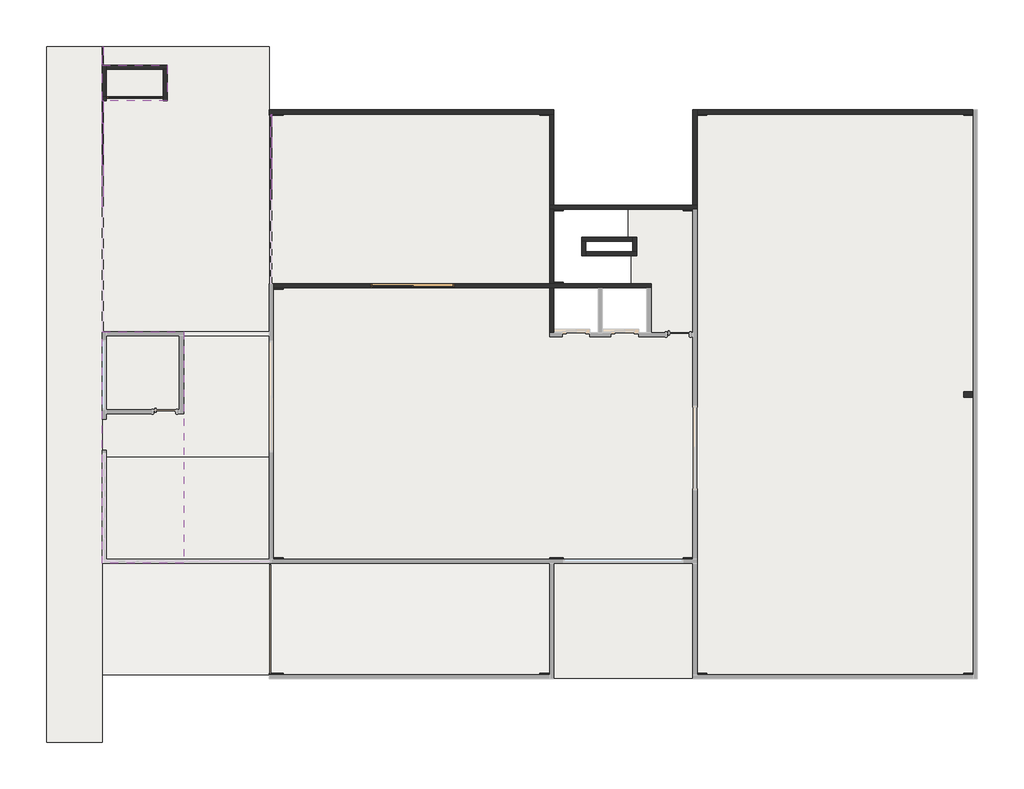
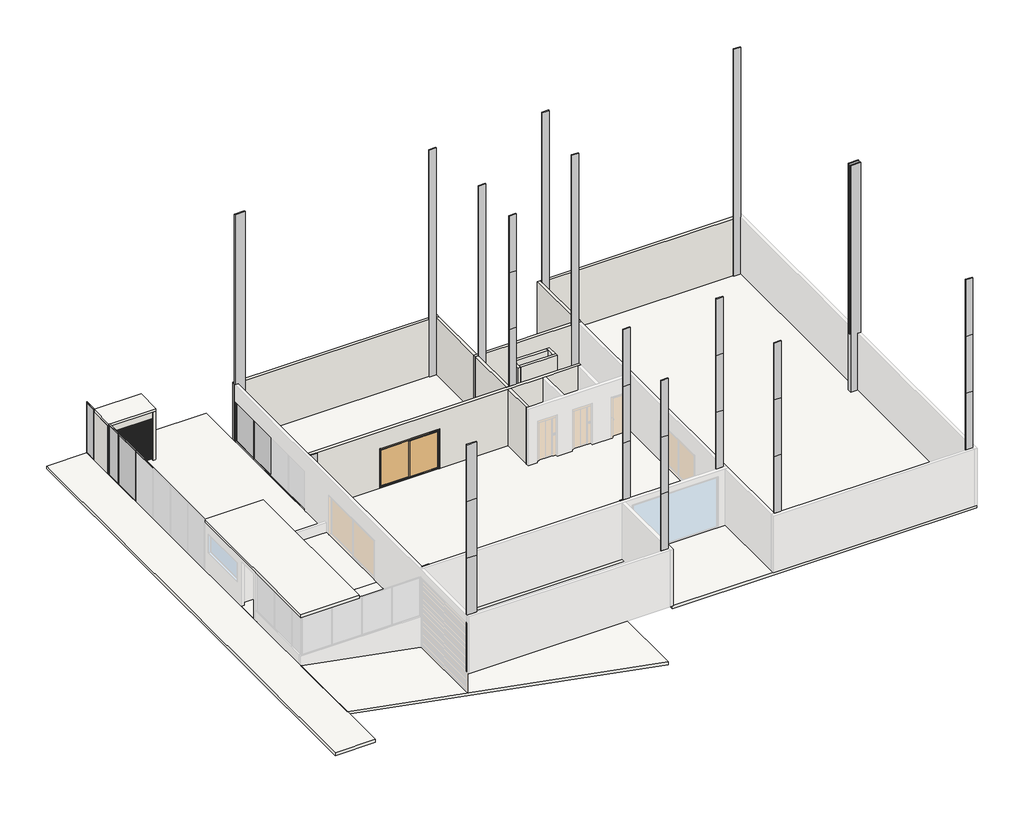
# One storey, part 2 of 2: 20 members, 16 columns, 15 walls, 8 slabs, 6 plates, 2 doors.
"""IFC4 building model written with IfcOpenShell, lengths in millimetres."""

from ifc_helpers import new_model, si_unit, frame, origin, origin_with_axes, place, context, project, spatial, polyline, outline, extrude, faceted_brep, transform, mapped, element, save
from components import door_956eb95e, door_3_00m_x_2_10m_bc451fc0, montante_retangular_30mm_quadrado_0448d2ee, montante_retangular_30mm_quadrado_052a7b02, montante_retangular_30mm_quadrado_8cb72221, montante_retangular_30mm_quadrado_36abf0b9, montante_retangular_30mm_quadrado_8a8b1aba, montante_retangular_30mm_quadrado_49b140b9, montante_retangular_30mm_quadrado_b2bf4f86, montante_retangular_30mm_quadrado_ebe63117, montante_retangular_30mm_quadrado_4952c7f2, painel_do_sistema_4731f275, painel_do_sistema_7d7a76ee, painel_do_sistema_acf0908f, painel_do_sistema_b03fa703, painel_do_sistema_2e0f2578

model = new_model("IFC4")

# Units and contexts
model_context = context("Model", 3, world=origin())
ifc_project = project(units=[si_unit("LENGTHUNIT", "METRE", prefix="MILLI")], contexts=[model_context])

# Site, building, storey
site = spatial("IfcSite", under=ifc_project)
building = spatial("IfcBuilding", under=site)
storey = spatial("IfcBuildingStorey", under=building, Name="Térreo", Elevation=150.0)

# Columns
placement = place(None, origin())
element("IfcColumn", 1, ObjectType="M_Coluna retangular : 50cm x 20cm", at=placement, inside=storey, context=model_context, shape_type="Brep", body=[
    faceted_brep([(6000.0, 22525.0, 12150.0), (6500.0, 22525.0, 12150.0), (6500.0, 22575.0, 12150.0), (6000.0, 22575.0, 12150.0), (6500.0, 22525.0, 150.0), (6000.0, 22525.0, 150.0), (6000.0, 22575.0, 150.0), (6500.0, 22575.0, 150.0), (6000.0, 22575.0, 6150.0), (6000.0, 22575.0, 3150.0), (6000.0, 22525.0, 3150.0), (6000.0, 22575.0, 9150.0), (6150.0, 22525.0, 3150.0), (6150.0, 22525.0, 2250.0), (6000.0, 22525.0, 2250.0), (6500.0, 22575.0, 3150.0), (6500.0, 22575.0, 6150.0), (6500.0, 22575.0, 9150.0), (6150.0, 22575.0, 3150.0), (6000.0, 22575.0, 2250.0), (6150.0, 22575.0, 2250.0)], [[[0, 1, 2, 3]], [[4, 5, 6, 7]], [[8, 9, 10, 0, 3, 11]], [[1, 0, 10, 12, 13, 14, 5, 4]], [[1, 4, 7, 15, 16, 17, 2]], [[9, 8, 16, 15, 18]], [[8, 11, 17, 16]], [[3, 2, 17, 11]], [[7, 6, 19, 20, 18, 15]], [[20, 13, 12, 18]], [[18, 12, 10, 9]], [[13, 20, 19, 14]], [[6, 5, 14, 19]]]),
])
element("IfcColumn", 2, ObjectType="M_Coluna retangular : 50cm x 20cm", at=placement, inside=storey, context=model_context, shape_type="Brep", body=[
    faceted_brep([(6500.0, 2475.0, 12150.0), (6000.0, 2475.0, 12150.0), (6000.0, 2425.0, 12150.0), (6500.0, 2425.0, 12150.0), (6000.0, 2475.0, 150.0), (6500.0, 2475.0, 150.0), (6500.0, 2425.0, 150.0), (6000.0, 2425.0, 150.0), (6000.0, 2475.0, 2750.0), (6150.0, 2475.0, 2750.0), (6150.0, 2475.0, 3150.0), (6000.0, 2475.0, 3150.0), (6000.0, 2425.0, 3150.0), (6000.0, 2425.0, 6150.0), (6000.0, 2425.0, 9150.0), (6500.0, 2425.0, 9150.0), (6500.0, 2425.0, 6150.0), (6500.0, 2425.0, 3150.0), (6150.0, 2425.0, 3150.0), (6150.0, 2425.0, 2750.0), (6000.0, 2425.0, 2750.0)], [[[0, 1, 2, 3]], [[4, 5, 6, 7]], [[1, 0, 5, 4, 8, 9, 10, 11]], [[12, 13, 14, 2, 1, 11]], [[5, 0, 3, 15, 16, 17, 6]], [[13, 12, 18, 17, 16]], [[14, 13, 16, 15]], [[3, 2, 14, 15]], [[7, 6, 17, 18, 19, 20]], [[9, 19, 18, 10]], [[10, 18, 12, 11]], [[19, 9, 8, 20]], [[4, 7, 20, 8]]]),
])
element("IfcColumn", 3, ObjectType="M_Coluna retangular : 50cm x 20cm", at=placement, inside=storey, context=model_context, shape_type="Brep", body=[
    faceted_brep([(16075.0, 2475.0, 12150.0), (15725.0, 2475.0, 12150.0), (15725.0, 2425.0, 12150.0), (16075.0, 2425.0, 12150.0), (15725.0, 2475.0, 150.0), (16075.0, 2475.0, 150.0), (16075.0, 2425.0, 150.0), (15725.0, 2425.0, 150.0), (16075.0, 2475.0, 9150.0), (16075.0, 2475.0, 6150.0), (16075.0, 2475.0, 3150.0), (15725.0, 2425.0, 3150.0), (15725.0, 2425.0, 6150.0), (15725.0, 2425.0, 9150.0), (16075.0, 2425.0, 6150.0), (16075.0, 2425.0, 3150.0), (16075.0, 2425.0, 9150.0)], [[[0, 1, 2, 3]], [[4, 5, 6, 7]], [[4, 1, 0, 8, 9, 10, 5]], [[1, 4, 7, 11, 12, 13, 2]], [[10, 9, 14, 15]], [[12, 11, 15, 14]], [[9, 8, 16, 14]], [[13, 12, 14, 16]], [[0, 3, 16, 8]], [[3, 2, 13, 16]], [[5, 10, 15, 6]], [[7, 6, 15, 11]]]),
])
element("IfcColumn", 4, ObjectType="M_Coluna retangular : 50cm x 20cm", at=placement, inside=storey, context=model_context, shape_type="Brep", body=[
    faceted_brep([(31300.0, 2475.0, 12150.0), (30950.0, 2475.0, 12150.0), (30950.0, 2425.0, 12150.0), (31300.0, 2425.0, 12150.0), (30950.0, 2475.0, 150.0), (31300.0, 2475.0, 150.0), (31300.0, 2425.0, 150.0), (30950.0, 2425.0, 150.0), (31300.0, 2475.0, 9150.0), (31300.0, 2475.0, 6150.0), (31300.0, 2475.0, 3150.0), (30950.0, 2425.0, 3150.0), (30950.0, 2425.0, 6150.0), (30950.0, 2425.0, 9150.0), (31300.0, 2425.0, 6150.0), (31300.0, 2425.0, 3150.0), (31300.0, 2425.0, 9150.0)], [[[0, 1, 2, 3]], [[4, 5, 6, 7]], [[4, 1, 0, 8, 9, 10, 5]], [[1, 4, 7, 11, 12, 13, 2]], [[10, 9, 14, 15]], [[12, 11, 15, 14]], [[9, 8, 16, 14]], [[13, 12, 14, 16]], [[8, 0, 3, 16]], [[3, 2, 13, 16]], [[5, 10, 15, 6]], [[7, 6, 15, 11]]]),
])
element("IfcColumn", 5, ObjectType="M_Coluna retangular : 50cm x 20cm", at=placement, inside=storey, context=model_context, shape_type="Brep", body=[
    faceted_brep([(21725.0, 2475.0, 12150.0), (21375.0, 2475.0, 12150.0), (21375.0, 2425.0, 12150.0), (21725.0, 2425.0, 12150.0), (21725.0, 2475.0, 150.0), (21725.0, 2425.0, 150.0), (21375.0, 2425.0, 150.0), (21375.0, 2475.0, 150.0), (21375.0, 2475.0, 3150.0), (21375.0, 2475.0, 6150.0), (21375.0, 2475.0, 9150.0), (21725.0, 2425.0, 9150.0), (21725.0, 2425.0, 6150.0), (21725.0, 2425.0, 3150.0), (21375.0, 2425.0, 3150.0), (21375.0, 2425.0, 6150.0), (21375.0, 2425.0, 9150.0)], [[[0, 1, 2, 3]], [[4, 5, 6, 7]], [[0, 4, 7, 8, 9, 10, 1]], [[4, 0, 3, 11, 12, 13, 5]], [[9, 8, 14, 15]], [[13, 12, 15, 14]], [[10, 9, 15, 16]], [[12, 11, 16, 15]], [[2, 1, 10, 16]], [[3, 2, 16, 11]], [[5, 13, 14, 6]], [[7, 6, 14, 8]]]),
])
element("IfcColumn", 6, ObjectType="M_Coluna retangular : 50cm x 20cm", at=placement, inside=storey, context=model_context, shape_type="Brep", body=[
    faceted_brep([(30950.0, 22525.0, 12150.0), (31300.0, 22525.0, 12150.0), (31300.0, 22575.0, 12150.0), (30950.0, 22575.0, 12150.0), (31300.0, 22525.0, 150.0), (30950.0, 22525.0, 150.0), (30950.0, 22575.0, 150.0), (31300.0, 22575.0, 150.0), (30950.0, 22575.0, 9150.0), (30950.0, 22575.0, 6150.0), (30950.0, 22575.0, 3150.0), (31300.0, 22525.0, 3150.0), (31300.0, 22525.0, 6150.0), (31300.0, 22525.0, 9150.0), (31300.0, 22575.0, 3150.0), (31300.0, 22575.0, 6150.0), (31300.0, 22575.0, 9150.0)], [[[0, 1, 2, 3]], [[4, 5, 6, 7]], [[5, 0, 3, 8, 9, 10, 6]], [[0, 5, 4, 11, 12, 13, 1]], [[12, 11, 14, 15]], [[10, 9, 15, 14]], [[13, 12, 15, 16]], [[9, 8, 16, 15]], [[1, 13, 16, 2]], [[3, 2, 16, 8]], [[11, 4, 7, 14]], [[7, 6, 10, 14]]]),
])
element("IfcColumn", 7, ObjectType="M_Coluna retangular : 50cm x 20cm", at=placement, inside=storey, context=model_context, shape_type="Brep", body=[
    faceted_brep([(21375.0, 22525.0, 12150.0), (21725.0, 22525.0, 12150.0), (21725.0, 22575.0, 12150.0), (21375.0, 22575.0, 12150.0), (21725.0, 22525.0, 150.0), (21375.0, 22525.0, 150.0), (21375.0, 22575.0, 150.0), (21725.0, 22575.0, 150.0), (21375.0, 22525.0, 9150.0), (21375.0, 22525.0, 6150.0), (21375.0, 22525.0, 3150.0), (21725.0, 22575.0, 3150.0), (21725.0, 22575.0, 6150.0), (21725.0, 22575.0, 9150.0), (21375.0, 22575.0, 6150.0), (21375.0, 22575.0, 3150.0), (21375.0, 22575.0, 9150.0)], [[[0, 1, 2, 3]], [[4, 5, 6, 7]], [[4, 1, 0, 8, 9, 10, 5]], [[1, 4, 7, 11, 12, 13, 2]], [[10, 9, 14, 15]], [[12, 11, 15, 14]], [[9, 8, 16, 14]], [[13, 12, 14, 16]], [[0, 3, 16, 8]], [[3, 2, 13, 16]], [[5, 10, 15, 6]], [[7, 6, 15, 11]]]),
])
element("IfcColumn", 8, ObjectType="M_Coluna retangular : 50cm x 20cm", at=placement, inside=storey, context=model_context, shape_type="Brep", body=[
    faceted_brep([(15725.0, 22525.0, 12150.0), (16075.0, 22525.0, 12150.0), (16075.0, 22575.0, 12150.0), (15725.0, 22575.0, 12150.0), (15725.0, 22525.0, 150.0), (15725.0, 22575.0, 150.0), (16075.0, 22575.0, 150.0), (16075.0, 22525.0, 150.0), (15725.0, 22575.0, 9150.0), (15725.0, 22575.0, 6150.0), (15725.0, 22575.0, 3150.0), (16075.0, 22525.0, 3150.0), (16075.0, 22525.0, 6150.0), (16075.0, 22525.0, 9150.0), (16075.0, 22575.0, 3150.0), (16075.0, 22575.0, 6150.0), (16075.0, 22575.0, 9150.0)], [[[0, 1, 2, 3]], [[4, 5, 6, 7]], [[4, 0, 3, 8, 9, 10, 5]], [[0, 4, 7, 11, 12, 13, 1]], [[12, 11, 14, 15]], [[10, 9, 15, 14]], [[13, 12, 15, 16]], [[9, 8, 16, 15]], [[2, 1, 13, 16]], [[3, 2, 16, 8]], [[5, 10, 14, 6]], [[7, 6, 14, 11]]]),
])
element("IfcColumn", 9, ObjectType="M_Coluna retangular : 50cm x 20cm", at=placement, inside=storey, context=model_context, shape_type="Brep", body=[
    faceted_brep([(31450.0, 12600.0, 12150.0), (30950.0, 12600.0, 12150.0), (30950.0, 12575.0, 12150.0), (31450.0, 12575.0, 12150.0), (30950.0, 12400.0, 150.0), (30950.0, 12600.0, 150.0), (31300.0, 12600.0, 150.0), (31300.0, 12400.0, 150.0), (31450.0, 12600.0, 3150.0), (31300.0, 12600.0, 3150.0), (30950.0, 12400.0, 12150.0), (30950.0, 12425.0, 12150.0), (30950.0, 12425.0, 9150.0), (30950.0, 12425.0, 6150.0), (30950.0, 12425.0, 3150.0), (30950.0, 12575.0, 3150.0), (30950.0, 12575.0, 6150.0), (30950.0, 12575.0, 9150.0), (31450.0, 12400.0, 12150.0), (31300.0, 12400.0, 3150.0), (31450.0, 12400.0, 3150.0), (31450.0, 12575.0, 6150.0), (31450.0, 12575.0, 3150.0), (31450.0, 12575.0, 9150.0), (31300.0, 12575.0, 3150.0), (31450.0, 12425.0, 6150.0), (31450.0, 12425.0, 3150.0), (31300.0, 12425.0, 3150.0), (31450.0, 12425.0, 9150.0), (31450.0, 12425.0, 12150.0)], [[[0, 1, 2, 3]], [[4, 5, 6, 7]], [[1, 0, 8, 9, 6, 5]], [[5, 4, 10, 11, 12, 13, 14, 15, 16, 17, 2, 1]], [[18, 10, 4, 7, 19, 20]], [[21, 22, 8, 0, 3, 23]], [[22, 21, 16, 15, 24]], [[25, 26, 27, 14, 13]], [[15, 14, 27, 24]], [[21, 23, 17, 16]], [[28, 25, 13, 12]], [[3, 2, 17, 23]], [[11, 29, 28, 12]], [[10, 18, 29, 11]], [[9, 24, 27, 19, 7, 6]], [[19, 27, 26, 20]], [[26, 25, 28, 29, 18, 20]], [[24, 9, 8, 22]]]),
])
element("IfcColumn", 10, ObjectType="M_Coluna retangular : 50cm x 20cm", at=placement, inside=storey, context=model_context, shape_type="Brep", body=[
    faceted_brep([(16575.0, 16525.0, 12150.0), (16225.0, 16525.0, 12150.0), (16225.0, 16475.0, 12150.0), (16575.0, 16475.0, 12150.0), (16575.0, 16525.0, 150.0), (16575.0, 16475.0, 150.0), (16225.0, 16475.0, 150.0), (16225.0, 16525.0, 150.0), (16225.0, 16525.0, 3150.0), (16225.0, 16525.0, 6150.0), (16225.0, 16525.0, 9150.0), (16575.0, 16475.0, 9150.0), (16575.0, 16475.0, 6150.0), (16575.0, 16475.0, 3150.0), (16225.0, 16475.0, 3150.0), (16225.0, 16475.0, 6150.0), (16225.0, 16475.0, 9150.0)], [[[0, 1, 2, 3]], [[4, 5, 6, 7]], [[0, 4, 7, 8, 9, 10, 1]], [[4, 0, 3, 11, 12, 13, 5]], [[5, 13, 14, 6]], [[9, 8, 14, 15]], [[10, 9, 15, 16]], [[1, 10, 16, 2]], [[7, 6, 14, 8]], [[13, 12, 15, 14]], [[12, 11, 16, 15]], [[3, 2, 16, 11]]]),
])
element("IfcColumn", 11, ObjectType="M_Coluna retangular : 50cm x 20cm", at=placement, inside=storey, context=model_context, shape_type="Brep", body=[
    faceted_brep([(16575.0, 19099.2009656, 12150.0), (16575.0, 19149.2009656, 12150.0), (16225.0, 19149.2009656, 12150.0), (16225.0, 19099.2009656, 12150.0), (16575.0, 19149.2009656, 150.0), (16575.0, 19099.2009656, 150.0), (16225.0, 19099.2009656, 150.0), (16225.0, 19149.2009656, 150.0), (16225.0, 19099.2009656, 9150.0), (16225.0, 19099.2009656, 6150.0), (16225.0, 19099.2009656, 3150.0), (16575.0, 19149.2009656, 3150.0), (16575.0, 19149.2009656, 6150.0), (16575.0, 19149.2009656, 9150.0), (16225.0, 19149.2009656, 3150.0), (16225.0, 19149.2009656, 6150.0), (16225.0, 19149.2009656, 9150.0)], [[[0, 1, 2, 3]], [[4, 5, 6, 7]], [[5, 0, 3, 8, 9, 10, 6]], [[0, 5, 4, 11, 12, 13, 1]], [[12, 11, 14, 15]], [[10, 9, 15, 14]], [[13, 12, 15, 16]], [[9, 8, 16, 15]], [[1, 13, 16, 2]], [[3, 2, 16, 8]], [[11, 4, 7, 14]], [[7, 6, 10, 14]]]),
])
element("IfcColumn", 12, ObjectType="M_Coluna retangular : 50cm x 20cm", at=placement, inside=storey, context=model_context, shape_type="Brep", body=[
    faceted_brep([(20875.0, 19149.2009656, 12150.0), (20875.0, 19099.2009656, 12150.0), (21225.0, 19099.2009656, 12150.0), (21225.0, 19149.2009656, 12150.0), (20875.0, 19099.2009656, 150.0), (20875.0, 19149.2009656, 150.0), (21225.0, 19149.2009656, 150.0), (21225.0, 19099.2009656, 150.0), (20875.0, 19149.2009656, 9150.0), (20875.0, 19149.2009656, 6150.0), (20875.0, 19149.2009656, 3150.0), (21225.0, 19099.2009656, 3150.0), (21225.0, 19099.2009656, 6150.0), (21225.0, 19099.2009656, 9150.0), (21225.0, 19149.2009656, 6150.0), (21225.0, 19149.2009656, 3150.0), (21225.0, 19149.2009656, 9150.0)], [[[0, 1, 2, 3]], [[4, 5, 6, 7]], [[4, 1, 0, 8, 9, 10, 5]], [[1, 4, 7, 11, 12, 13, 2]], [[10, 9, 14, 15]], [[12, 11, 15, 14]], [[9, 8, 16, 14]], [[13, 12, 14, 16]], [[8, 0, 3, 16]], [[3, 2, 13, 16]], [[5, 10, 15, 6]], [[7, 6, 15, 11]]]),
])
element("IfcColumn", 13, ObjectType="M_Coluna retangular : 50cm x 20cm", at=placement, inside=storey, context=model_context, shape_type="SweptSolid", body=[
    extrude(outline(polyline([(6500.0, 16275.0), (6150.0, 16275.0), (6150.0, 16325.0), (6500.0, 16325.0), (6500.0, 16275.0)])), frame((0.0, 0.0, 150.0), z_axis=(0.0, 0.0, 1.0), x_axis=(1.0, 0.0, 0.0)), (0.0, 0.0, 1.0), 3000.0),
])
element("IfcColumn", 14, ObjectType="M_Coluna retangular : 50cm x 20cm", at=placement, inside=storey, context=model_context, shape_type="SweptSolid", body=[
    extrude(outline(polyline([(6150.0, 6625.0), (6500.0, 6625.0), (6500.0, 6575.0), (6150.0, 6575.0), (6150.0, 6625.0)])), frame((0.0, 0.0, 150.0), z_axis=(0.0, 0.0, 1.0), x_axis=(1.0, 0.0, 0.0)), (0.0, 0.0, 1.0), 3000.0),
])
element("IfcColumn", 15, ObjectType="M_Coluna retangular : 50cm x 20cm", at=placement, inside=storey, context=model_context, shape_type="Brep", body=[
    faceted_brep([(20875.0, 6625.0, 12150.0), (20875.0, 6575.0, 12150.0), (21225.0, 6575.0, 12150.0), (21225.0, 6625.0, 12150.0), (20875.0, 6625.0, 150.0), (21225.0, 6625.0, 150.0), (21225.0, 6575.0, 150.0), (20875.0, 6575.0, 150.0), (21225.0, 6625.0, 9150.0), (21225.0, 6625.0, 6150.0), (21225.0, 6625.0, 3150.0), (20875.0, 6575.0, 2850.0), (20875.0, 6575.0, 3150.0), (20875.0, 6575.0, 5850.0), (20875.0, 6575.0, 6150.0), (20875.0, 6575.0, 8850.0), (20875.0, 6575.0, 9150.0), (20875.0, 6575.0, 11850.0), (21225.0, 6575.0, 3150.0), (21225.0, 6575.0, 6150.0), (21225.0, 6575.0, 9150.0)], [[[0, 1, 2, 3]], [[4, 5, 6, 7]], [[4, 0, 3, 8, 9, 10, 5]], [[0, 4, 7, 11, 12, 13, 14, 15, 16, 17, 1]], [[11, 7, 6, 18, 12]], [[6, 5, 10, 18]], [[13, 12, 18, 19, 14]], [[10, 9, 19, 18]], [[15, 14, 19, 20, 16]], [[9, 8, 20, 19]], [[2, 1, 17, 16, 20]], [[3, 2, 20, 8]]]),
])
element("IfcColumn", 16, ObjectType="M_Coluna retangular : 50cm x 20cm", at=placement, inside=storey, context=model_context, shape_type="Brep", body=[
    faceted_brep([(16575.0, 6575.0, 12150.0), (16575.0, 6625.0, 12150.0), (16225.0, 6625.0, 12150.0), (16225.0, 6575.0, 12150.0), (16075.0, 6625.0, 150.0), (16575.0, 6625.0, 150.0), (16575.0, 6575.0, 150.0), (16075.0, 6575.0, 150.0), (16075.0, 6625.0, 3150.0), (16225.0, 6625.0, 3150.0), (16225.0, 6625.0, 6150.0), (16225.0, 6625.0, 9150.0), (16575.0, 6575.0, 11850.0), (16575.0, 6575.0, 9150.0), (16575.0, 6575.0, 8850.0), (16575.0, 6575.0, 6150.0), (16575.0, 6575.0, 5850.0), (16575.0, 6575.0, 3150.0), (16575.0, 6575.0, 2850.0), (16225.0, 6575.0, 6150.0), (16225.0, 6575.0, 3150.0), (16075.0, 6575.0, 3150.0), (16225.0, 6575.0, 9150.0)], [[[0, 1, 2, 3]], [[4, 5, 6, 7]], [[5, 4, 8, 9, 10, 11, 2, 1]], [[5, 1, 0, 12, 13, 14, 15, 16, 17, 18, 6]], [[17, 16, 15, 19, 20]], [[9, 20, 19, 10]], [[20, 9, 8, 21]], [[8, 4, 7, 21]], [[15, 14, 13, 22, 19]], [[11, 10, 19, 22]], [[0, 3, 22, 13, 12]], [[3, 2, 11, 22]], [[7, 6, 18, 17, 20, 21]]]),
])

# Doors
door_shape = door_956eb95e(model_context)
element("IfcDoor", 17, ObjectType="Portão Ripado Horizontal : Portão paramétrico - 2,00m", at=placement, inside=storey, context=model_context, shape_type="MappedRepresentation", body=[
    mapped(door_shape, transform((1170.0, 23132.5, 150.0), x_axis=(-1.0, 0.0, 0.0), y_axis=(0.0, -1.0, 0.0), z_axis=(0.0, 0.0, 1.0))),
])
door_3_00m_x_2_10m_shape = door_3_00m_x_2_10m_bc451fc0(model_context)
element("IfcDoor", 18, ObjectType="Porta de Correr - 2 Folhas - ComPainel 1 : 3.00m x 2.10m", at=placement, inside=storey, context=model_context, shape_type="MappedRepresentation", body=[
    mapped(door_3_00m_x_2_10m_shape, transform((11179.2060771, 16400.0, 150.0), x_axis=(-1.0, 0.0, 0.0), y_axis=(0.0, -1.0, 0.0), z_axis=(0.0, 0.0, 1.0))),
])

# Members
montante_retangular_30mm_quadrado_shape = montante_retangular_30mm_quadrado_0448d2ee(model_context)
element("IfcMember", 19, ObjectType="Montante retangular : 30mm Quadrado", at=placement, inside=storey, context=model_context, shape_type="MappedRepresentation", body=[
    mapped(montante_retangular_30mm_quadrado_shape, transform((15.0, 20735.4232804, 2850.0), x_axis=(0.0, 0.0, 1.0), y_axis=(1.0, 0.0, 0.0), z_axis=(0.0, 1.0, 0.0))),
])
element("IfcMember", 20, ObjectType="Montante retangular : 30mm Quadrado", at=placement, inside=storey, context=model_context, shape_type="MappedRepresentation", body=[
    mapped(montante_retangular_30mm_quadrado_shape, transform((15.0, 22235.4232804, 2850.0), x_axis=(0.0, 0.0, 1.0), y_axis=(1.0, 0.0, 0.0), z_axis=(0.0, 1.0, 0.0))),
])
element("IfcMember", 21, ObjectType="Montante retangular : 30mm Quadrado", at=placement, inside=storey, context=model_context, shape_type="MappedRepresentation", body=[
    mapped(montante_retangular_30mm_quadrado_shape, transform((6075.0, 20990.0000003, 2250.0), x_axis=(0.0, 0.0, 1.0), y_axis=(1.0, 0.0, 0.0), z_axis=(0.0, 1.0, 0.0))),
])
element("IfcMember", 22, ObjectType="Montante retangular : 30mm Quadrado", at=placement, inside=storey, context=model_context, shape_type="MappedRepresentation", body=[
    mapped(montante_retangular_30mm_quadrado_shape, transform((6075.0, 22490.0000003, 2250.0), x_axis=(0.0, 0.0, 1.0), y_axis=(1.0, 0.0, 0.0), z_axis=(0.0, 1.0, 0.0))),
])
element("IfcMember", 23, ObjectType="Montante retangular : 30mm Quadrado", at=placement, inside=storey, context=model_context, shape_type="MappedRepresentation", body=[
    mapped(montante_retangular_30mm_quadrado_shape, transform((15.0, 20735.4232804, 150.0), x_axis=(0.0, 0.0, -1.0), y_axis=(1.0, 0.0, 0.0), z_axis=(0.0, -1.0, 0.0))),
])
element("IfcMember", 24, ObjectType="Montante retangular : 30mm Quadrado", at=placement, inside=storey, context=model_context, shape_type="MappedRepresentation", body=[
    mapped(montante_retangular_30mm_quadrado_shape, transform((6075.0, 20990.0000003, 150.0), x_axis=(0.0, 0.0, -1.0), y_axis=(1.0, 0.0, 0.0), z_axis=(0.0, -1.0, 0.0))),
])
montante_retangular_30mm_quadrado_2_shape = montante_retangular_30mm_quadrado_052a7b02(model_context)
element("IfcMember", 25, ObjectType="Montante retangular : 30mm Quadrado", at=placement, inside=storey, context=model_context, shape_type="MappedRepresentation", body=[
    mapped(montante_retangular_30mm_quadrado_2_shape, transform((15.0, 20735.4232804, 180.0), x_axis=(0.0, 1.0, 0.0), y_axis=(1.0, 0.0, 0.0), z_axis=(0.0, 0.0, -1.0))),
])
element("IfcMember", 26, ObjectType="Montante retangular : 30mm Quadrado", at=placement, inside=storey, context=model_context, shape_type="MappedRepresentation", body=[
    mapped(montante_retangular_30mm_quadrado_2_shape, transform((15.0, 22235.4232804, 180.0), x_axis=(0.0, 1.0, 0.0), y_axis=(1.0, 0.0, 0.0), z_axis=(0.0, 0.0, -1.0))),
])
montante_retangular_30mm_quadrado_3_shape = montante_retangular_30mm_quadrado_8cb72221(model_context)
element("IfcMember", 27, ObjectType="Montante retangular : 30mm Quadrado", at=placement, inside=storey, context=model_context, shape_type="MappedRepresentation", body=[
    mapped(montante_retangular_30mm_quadrado_3_shape, transform((15.0, 25000.0, 180.0), x_axis=(0.0, 1.0, 0.0), y_axis=(1.0, 0.0, 0.0), z_axis=(0.0, 0.0, -1.0))),
])
element("IfcMember", 28, ObjectType="Montante retangular : 30mm Quadrado", at=placement, inside=storey, context=model_context, shape_type="MappedRepresentation", body=[
    mapped(montante_retangular_30mm_quadrado_3_shape, transform((15.0, 23057.5, 180.0), x_axis=(0.0, 1.0, 0.0), y_axis=(1.0, 0.0, 0.0), z_axis=(0.0, 0.0, -1.0))),
])
montante_retangular_30mm_quadrado_4_shape = montante_retangular_30mm_quadrado_36abf0b9(model_context)
element("IfcMember", 29, ObjectType="Montante retangular : 30mm Quadrado", at=placement, inside=storey, context=model_context, shape_type="MappedRepresentation", body=[
    mapped(montante_retangular_30mm_quadrado_4_shape, transform((6075.0, 20990.0000003, 180.0), x_axis=(0.0, 1.0, 0.0), y_axis=(1.0, 0.0, 0.0), z_axis=(0.0, 0.0, -1.0))),
])
element("IfcMember", 30, ObjectType="Montante retangular : 30mm Quadrado", at=placement, inside=storey, context=model_context, shape_type="MappedRepresentation", body=[
    mapped(montante_retangular_30mm_quadrado_4_shape, transform((6075.0, 22490.0000003, 180.0), x_axis=(0.0, 1.0, 0.0), y_axis=(1.0, 0.0, 0.0), z_axis=(0.0, 0.0, -1.0))),
])
montante_retangular_30mm_quadrado_5_shape = montante_retangular_30mm_quadrado_8a8b1aba(model_context)
element("IfcMember", 31, ObjectType="Montante retangular : 30mm Quadrado", at=placement, inside=storey, context=model_context, shape_type="MappedRepresentation", body=[
    mapped(montante_retangular_30mm_quadrado_5_shape, transform((6075.0, 22575.0, 180.0), x_axis=(0.0, 1.0, 0.0), y_axis=(1.0, 0.0, 0.0), z_axis=(0.0, 0.0, -1.0))),
])
montante_retangular_30mm_quadrado_6_shape = montante_retangular_30mm_quadrado_49b140b9(model_context)
element("IfcMember", 32, ObjectType="Montante retangular : 30mm Quadrado", at=placement, inside=storey, context=model_context, shape_type="MappedRepresentation", body=[
    mapped(montante_retangular_30mm_quadrado_6_shape, transform((6075.0, 22575.0, 2250.0), x_axis=(0.0, 0.0, 1.0), y_axis=(1.0, 0.0, 0.0), z_axis=(0.0, 1.0, 0.0))),
])
element("IfcMember", 33, ObjectType="Montante retangular : 30mm Quadrado", at=placement, inside=storey, context=model_context, shape_type="MappedRepresentation", body=[
    mapped(montante_retangular_30mm_quadrado_6_shape, transform((6075.0, 22490.0000003, 150.0), x_axis=(0.0, 0.0, -1.0), y_axis=(1.0, 0.0, 0.0), z_axis=(0.0, -1.0, 0.0))),
])
montante_retangular_30mm_quadrado_7_shape = montante_retangular_30mm_quadrado_b2bf4f86(model_context)
element("IfcMember", 34, ObjectType="Montante retangular : 30mm Quadrado", at=placement, inside=storey, context=model_context, shape_type="MappedRepresentation", body=[
    mapped(montante_retangular_30mm_quadrado_7_shape, transform((15.0, 24332.5, 2850.0), x_axis=(0.0, -1.0, 0.0), y_axis=(1.0, 0.0, 0.0), z_axis=(0.0, 0.0, 1.0))),
])
montante_retangular_30mm_quadrado_8_shape = montante_retangular_30mm_quadrado_ebe63117(model_context)
element("IfcMember", 35, ObjectType="Montante retangular : 30mm Quadrado", at=placement, inside=storey, context=model_context, shape_type="MappedRepresentation", body=[
    mapped(montante_retangular_30mm_quadrado_8_shape, transform((15.0, 22235.4232804, 150.0), x_axis=(0.0, 0.0, -1.0), y_axis=(1.0, 0.0, 0.0), z_axis=(0.0, -1.0, 0.0))),
])
element("IfcMember", 36, ObjectType="Montante retangular : 30mm Quadrado", at=placement, inside=storey, context=model_context, shape_type="MappedRepresentation", body=[
    mapped(montante_retangular_30mm_quadrado_8_shape, transform((15.0, 23057.5, 2850.0), x_axis=(0.0, 0.0, 1.0), y_axis=(1.0, 0.0, 0.0), z_axis=(0.0, 1.0, 0.0))),
])
montante_retangular_30mm_quadrado_9_shape = montante_retangular_30mm_quadrado_4952c7f2(model_context)
element("IfcMember", 37, ObjectType="Montante retangular : 30mm Quadrado", at=placement, inside=storey, context=model_context, shape_type="MappedRepresentation", body=[
    mapped(montante_retangular_30mm_quadrado_9_shape, transform((15.0, 25000.0, 2850.0), x_axis=(0.0, 0.0, 1.0), y_axis=(1.0, 0.0, 0.0), z_axis=(0.0, 1.0, 0.0))),
])
element("IfcMember", 38, ObjectType="Montante retangular : 30mm Quadrado", at=placement, inside=storey, context=model_context, shape_type="MappedRepresentation", body=[
    mapped(montante_retangular_30mm_quadrado_9_shape, transform((15.0, 24362.5, 150.0), x_axis=(0.0, 0.0, -1.0), y_axis=(1.0, 0.0, 0.0), z_axis=(0.0, -1.0, 0.0))),
])

# Plates
painel_do_sistema_shape = painel_do_sistema_4731f275(model_context)
element("IfcPlate", 39, ObjectType="Painel do sistema : Envidraçado", at=placement, inside=storey, context=model_context, shape_type="MappedRepresentation", body=[
    mapped(painel_do_sistema_shape, transform((15.0, 21485.4232804, 180.0), x_axis=(0.0, 1.0, 0.0), y_axis=(-1.0, 0.0, 0.0), z_axis=(0.0, 0.0, 1.0))),
])
painel_do_sistema_2_shape = painel_do_sistema_7d7a76ee(model_context)
element("IfcPlate", 40, ObjectType="Painel do sistema : Envidraçado", at=placement, inside=storey, context=model_context, shape_type="MappedRepresentation", body=[
    mapped(painel_do_sistema_2_shape, transform((6075.0, 20240.0000003, 180.0), x_axis=(0.0, 1.0, 0.0), y_axis=(-1.0, 0.0, 0.0), z_axis=(0.0, 0.0, 1.0))),
])
element("IfcPlate", 41, ObjectType="Painel do sistema : Envidraçado", at=placement, inside=storey, context=model_context, shape_type="MappedRepresentation", body=[
    mapped(painel_do_sistema_2_shape, transform((6075.0, 21740.0000003, 180.0), x_axis=(0.0, 1.0, 0.0), y_axis=(-1.0, 0.0, 0.0), z_axis=(0.0, 0.0, 1.0))),
])
painel_do_sistema_3_shape = painel_do_sistema_acf0908f(model_context)
element("IfcPlate", 42, ObjectType="Painel do sistema : Envidraçado", at=placement, inside=storey, context=model_context, shape_type="MappedRepresentation", body=[
    mapped(painel_do_sistema_3_shape, transform((6075.0, 22525.0000002, 180.0), x_axis=(0.0, 1.0, 0.0), y_axis=(-1.0, 0.0, 0.0), z_axis=(0.0, 0.0, 1.0))),
])
painel_do_sistema_4_shape = painel_do_sistema_b03fa703(model_context)
element("IfcPlate", 43, ObjectType="Painel do sistema : Envidraçado", at=placement, inside=storey, context=model_context, shape_type="MappedRepresentation", body=[
    mapped(painel_do_sistema_4_shape, transform((15.0, 22638.9616402, 180.0), x_axis=(0.0, 1.0, 0.0), y_axis=(-1.0, 0.0, 0.0), z_axis=(0.0, 0.0, 1.0))),
])
painel_do_sistema_5_shape = painel_do_sistema_2e0f2578(model_context)
element("IfcPlate", 44, ObjectType="Painel do sistema : Envidraçado", at=placement, inside=storey, context=model_context, shape_type="MappedRepresentation", body=[
    mapped(painel_do_sistema_5_shape, transform((15.0, 24666.25, 180.0), x_axis=(0.0, 1.0, 0.0), y_axis=(-1.0, 0.0, 0.0), z_axis=(0.0, 0.0, 1.0))),
])

# Slabs
element("IfcSlab", 45, ObjectType="_Piso Semipermeável", at=placement, inside=storey, context=model_context, shape_type="SweptSolid", body=[
    extrude(outline(polyline([(6000.0, 14750.4232801), (6000.0, 10249.5767199), (0.0, 10249.5767199), (0.0, 14750.4232801), (6000.0, 14750.4232801)])), origin_with_axes(), (0.0, 0.0, 1.0), 150.0),
])
element("IfcSlab", 46, ObjectType="_Piso Semipermeável 100%", at=placement, inside=storey, context=model_context, shape_type="SweptSolid", body=[
    extrude(outline(polyline([(6000.0, 25000.0), (6000.0, 14750.4232801), (0.0, 14750.4232801), (0.0, 25000.0), (6000.0, 25000.0)])), origin_with_axes(), (0.0, 0.0, 1.0), 150.0),
])
element("IfcSlab", 47, ObjectType="Grama", at=placement, inside=storey, context=model_context, shape_type="SweptSolid", body=[
    extrude(outline(polyline([(6000.0, 10249.5767199), (6000.0, 6575.0), (150.0, 6575.0), (150.0, 10249.5767199), (6000.0, 10249.5767199)])), frame((0.0, 0.0, 120.0), z_axis=(0.0, 0.0, 1.0), x_axis=(1.0, 0.0, 0.0)), (0.0, 0.0, 1.0), 30.0),
])
element("IfcSlab", 48, ObjectType="_Laje 15cm", at=placement, inside=storey, context=model_context, shape_type="SweptSolid", body=[
    extrude(outline(polyline([(-2000.0, 0.0), (-2000.0, 25000.0), (0.0, 25000.0), (0.0, 0.0), (-2000.0, 0.0)])), origin_with_axes(), (0.0, 0.0, 1.0), 150.0),
])
element("IfcSlab", 49, ObjectType="_Laje 15cm", at=placement, inside=storey, context=model_context, shape_type="SweptSolid", body=[
    extrude(outline(polyline([(-3000.0, 16075.0), (-2850.0, 16075.0), (150.0, 0.0), (0.0, 0.0), (-3000.0, 16075.0)])), frame((0.0, 2425.0, 0.0), z_axis=(0.0, 1.0, 0.0), x_axis=(0.0, 0.0, 1.0)), (0.0, 0.0, 1.0), 4000.0),
])
element("IfcSlab", 50, ObjectType="_Laje 15cm", at=placement, inside=storey, context=model_context, shape_type="SweptSolid", body=[
    extrude(outline(polyline([(16205.0, 22705.0), (16205.0, 14725.0), (19725.0, 14725.0), (19725.0, 16475.0), (19010.0, 16475.0), (19010.0, 17474.2019304), (19205.0, 17473.8019304), (19205.0, 18149.6), (18905.0, 18149.6), (18905.0, 19279.2009656), (21245.0, 19279.2009656), (21245.0, 22705.0), (31430.0, 22705.0), (31430.0, 2295.0), (16205.0, 2295.0), (16205.0, 6445.0), (6020.0, 6445.0), (6020.0, 22705.0), (16205.0, 22705.0)])), origin_with_axes(), (0.0, 0.0, 1.0), 150.0),
])
element("IfcSlab", 51, ObjectType="_Laje 15cm", at=placement, inside=storey, context=model_context, shape_type="SweptSolid", body=[
    extrude(outline(polyline([(2921.1500339, 14750.4232801), (2921.1500339, 6425.0), (0.0, 6425.0), (0.0, 14750.4232801), (2921.1500339, 14750.4232801)])), frame((0.0, 0.0, 2700.0), z_axis=(0.0, 0.0, 1.0), x_axis=(1.0, 0.0, 0.0)), (0.0, 0.0, 1.0), 150.0),
])
element("IfcSlab", 52, ObjectType="_Laje 15cm", at=placement, inside=storey, context=model_context, shape_type="SweptSolid", body=[
    extrude(outline(polyline([(2340.0, 24332.5), (2340.0, 23057.5), (0.0, 23057.5), (0.0, 24332.5), (2340.0, 24332.5)])), frame((0.0, 0.0, 2700.0), z_axis=(0.0, 0.0, 1.0), x_axis=(1.0, 0.0, 0.0)), (0.0, 0.0, 1.0), 150.0),
])

# Walls
element("IfcWall", 53, ObjectType="M_Parede Normal - 15cm - Externa", at=placement, inside=storey, context=model_context, shape_type="Brep", body=[
    faceted_brep([(6000.0, 22575.0, 150.0), (6500.0, 22575.0, 150.0), (15725.0, 22575.0, 150.0), (16075.0, 22575.0, 150.0), (16225.0, 22575.0, 150.0), (16225.0, 22575.0, 3150.0), (16075.0, 22575.0, 3150.0), (6150.0, 22575.0, 3150.0), (6000.0, 22575.0, 3150.0), (6000.0, 22575.0, 2250.0), (6000.0, 22725.0, 150.0), (6000.0, 22725.0, 3150.0), (16225.0, 22725.0, 3150.0), (16225.0, 22725.0, 150.0)], [[[0, 1, 2, 3, 4, 5, 6, 7, 8, 9]], [[10, 11, 12, 13]], [[4, 3, 2, 1, 0, 10, 13]], [[8, 7, 6, 5, 12, 11]], [[0, 9, 8, 11, 10]], [[5, 4, 13, 12]]]),
])
element("IfcWall", 54, ObjectType="M_Parede Normal - 15cm - Externa", at=placement, inside=storey, context=model_context, shape_type="Brep", body=[
    faceted_brep([(16075.0, 19149.2009656, 150.0), (16225.0, 19149.2009656, 150.0), (16575.0, 19149.2009656, 150.0), (20875.0, 19149.2009656, 150.0), (21225.0, 19149.2009656, 150.0), (21375.0, 19149.2009656, 150.0), (21375.0, 19149.2009656, 3150.0), (21225.0, 19149.2009656, 3150.0), (16225.0, 19149.2009656, 3150.0), (16075.0, 19149.2009656, 3150.0), (16075.0, 19299.2009656, 150.0), (16075.0, 19299.2009656, 3150.0), (16225.0, 19299.2009656, 3150.0), (21225.0, 19299.2009656, 3150.0), (21375.0, 19299.2009656, 3150.0), (21375.0, 19299.2009656, 150.0), (21225.0, 19299.2009656, 150.0), (16225.0, 19299.2009656, 150.0)], [[[0, 1, 2, 3, 4, 5, 6, 7, 8, 9]], [[10, 11, 12, 13, 14, 15, 16, 17]], [[5, 4, 3, 2, 1, 0, 10, 17, 16, 15]], [[9, 8, 7, 6, 14, 13, 12, 11]], [[0, 9, 11, 10]], [[6, 5, 15, 14]]]),
])
element("IfcWall", 55, ObjectType="M_Parede Normal - 15cm - Externa", at=placement, inside=storey, context=model_context, shape_type="Brep", body=[
    faceted_brep([(16075.0, 22575.0, 150.0), (16075.0, 22525.0, 150.0), (16075.0, 19299.2009656, 150.0), (16075.0, 19299.2009656, 3150.0), (16075.0, 22575.0, 3150.0), (16225.0, 22575.0, 150.0), (16225.0, 22575.0, 3150.0), (16225.0, 19299.2009656, 3150.0), (16225.0, 19299.2009656, 150.0)], [[[0, 1, 2, 3, 4]], [[5, 6, 7, 8]], [[2, 1, 0, 5, 8]], [[4, 3, 7, 6]], [[3, 2, 8, 7]], [[0, 4, 6, 5]]]),
])
element("IfcWall", 56, ObjectType="M_Parede Normal - 15cm - Externa", at=placement, inside=storey, context=model_context, shape_type="Brep", body=[
    faceted_brep([(21225.0, 22725.0, 150.0), (21225.0, 19299.2009656, 150.0), (21225.0, 19299.2009656, 3150.0), (21225.0, 22725.0, 3150.0), (21375.0, 22725.0, 150.0), (21375.0, 22725.0, 3150.0), (21375.0, 22575.0, 3150.0), (21375.0, 19299.2009656, 3150.0), (21375.0, 19299.2009656, 150.0), (21375.0, 22525.0, 150.0), (21375.0, 22575.0, 150.0)], [[[0, 1, 2, 3]], [[4, 5, 6, 7, 8, 9, 10]], [[1, 0, 4, 10, 9, 8]], [[3, 2, 7, 6, 5]], [[2, 1, 8, 7]], [[0, 3, 5, 4]]]),
])
element("IfcWall", 57, ObjectType="M_Parede Normal - 15cm - Externa", at=placement, inside=storey, context=model_context, shape_type="Brep", body=[
    faceted_brep([(21375.0, 22575.0, 150.0), (21725.0, 22575.0, 150.0), (30950.0, 22575.0, 150.0), (31300.0, 22575.0, 150.0), (31300.0, 22575.0, 3150.0), (21375.0, 22575.0, 3150.0), (21375.0, 22725.0, 150.0), (21375.0, 22725.0, 3150.0), (31300.0, 22725.0, 3150.0), (31300.0, 22725.0, 150.0)], [[[0, 1, 2, 3, 4, 5]], [[6, 7, 8, 9]], [[3, 2, 1, 0, 6, 9]], [[5, 4, 8, 7]], [[4, 3, 9, 8]], [[0, 5, 7, 6]]]),
])
element("IfcWall", 58, ObjectType="M_Parede Normal - 15cm - Externa", at=placement, inside=storey, context=model_context, shape_type="Brep", body=[
    faceted_brep([(2340.0, 24332.5, 150.0), (150.0, 24332.5, 150.0), (150.0, 24332.5, 2700.0), (2340.0, 24332.5, 2700.0), (2340.0, 24182.5, 150.0), (2340.0, 24182.5, 2700.0), (2190.0, 24182.5, 2700.0), (150.0, 24182.5, 2700.0), (150.0, 24182.5, 150.0), (2190.0, 24182.5, 150.0)], [[[0, 1, 2, 3]], [[4, 5, 6, 7, 8, 9]], [[1, 0, 4, 9, 8]], [[0, 3, 5, 4]], [[3, 2, 7, 6, 5]], [[2, 1, 8, 7]]]),
])
element("IfcWall", 59, ObjectType="M_Parede Normal - 15cm - Externa", at=placement, inside=storey, context=model_context, shape_type="Brep", body=[
    faceted_brep([(2340.0, 23057.5, 150.0), (2340.0, 24182.5, 150.0), (2340.0, 24182.5, 2700.0), (2340.0, 23057.5, 2700.0), (2190.0, 23057.5, 150.0), (2190.0, 23057.5, 2400.0), (2190.0, 23057.5, 2700.0), (2190.0, 23207.5, 2700.0), (2190.0, 24182.5, 2700.0), (2190.0, 24182.5, 150.0)], [[[0, 1, 2, 3]], [[4, 5, 6, 7, 8, 9]], [[1, 0, 4, 9]], [[0, 3, 6, 5, 4]], [[2, 1, 9, 8]], [[3, 2, 8, 7, 6]]]),
])
element("IfcWall", 60, ObjectType="M_Parede Normal - 15cm - Externa", at=placement, inside=storey, context=model_context, shape_type="Brep", body=[
    faceted_brep([(0.0, 23057.5, 2700.0), (0.0, 23057.5, 150.0), (150.0, 23057.5, 150.0), (150.0, 23057.5, 2400.0), (2190.0, 23057.5, 2400.0), (2190.0, 23057.5, 2700.0), (0.0, 23207.5, 150.0), (0.0, 23207.5, 2700.0), (150.0, 23207.5, 2700.0), (2190.0, 23207.5, 2700.0), (2190.0, 23207.5, 2400.0), (150.0, 23207.5, 2400.0), (150.0, 23207.5, 150.0)], [[[0, 1, 2, 3, 4, 5]], [[6, 7, 8, 9, 10, 11, 12]], [[1, 6, 12, 2]], [[1, 0, 7, 6]], [[9, 5, 4, 10]], [[11, 3, 2, 12]], [[3, 11, 10, 4]], [[0, 5, 9, 8, 7]]]),
])
element("IfcWall", 61, ObjectType="M_Parede Normal - 15cm - Externa", at=placement, inside=storey, context=model_context, shape_type="Brep", body=[
    faceted_brep([(0.0, 24332.5, 150.0), (0.0, 23207.5, 150.0), (0.0, 23207.5, 2700.0), (0.0, 24332.5, 2700.0), (150.0, 24332.5, 150.0), (150.0, 24332.5, 2700.0), (150.0, 24182.5, 2700.0), (150.0, 23207.5, 2700.0), (150.0, 23207.5, 2400.0), (150.0, 23207.5, 150.0), (150.0, 24182.5, 150.0)], [[[0, 1, 2, 3]], [[4, 5, 6, 7, 8, 9, 10]], [[1, 0, 4, 10, 9]], [[2, 1, 9, 8, 7]], [[3, 2, 7, 6, 5]], [[0, 3, 5, 4]]]),
])
element("IfcWall", 62, ObjectType="M_Parede Normal - 15cm - Interna", at=placement, inside=storey, context=model_context, shape_type="Brep", body=[
    faceted_brep([(17225.4, 17998.8009656, 150.0), (17375.4, 17998.8009656, 150.0), (19055.0, 17998.8009656, 150.0), (19055.0, 17998.8009656, 3150.0), (17375.4, 17998.8009656, 3150.0), (17225.4, 17998.8009656, 3150.0), (17225.4, 18148.8009656, 150.0), (17225.4, 18148.8009656, 3150.0), (19055.0, 18148.8009656, 3150.0), (19055.0, 18148.8009656, 150.0)], [[[0, 1, 2, 3, 4, 5]], [[6, 7, 8, 9]], [[2, 1, 0, 6, 9]], [[5, 4, 3, 8, 7]], [[0, 5, 7, 6]], [[3, 2, 9, 8]]]),
])
element("IfcWall", 63, ObjectType="M_Parede Normal - 15cm - Interna", at=placement, inside=storey, context=model_context, shape_type="Brep", body=[
    faceted_brep([(17375.4, 17474.2009656, 150.0), (17375.4, 17624.2009656, 150.0), (17375.4, 17998.8009656, 150.0), (17375.4, 17998.8009656, 3150.0), (17375.4, 17624.2009656, 3150.0), (17375.4, 17474.2009656, 3150.0), (17225.4, 17474.2009656, 150.0), (17225.4, 17474.2009656, 3150.0), (17225.4, 17998.8009656, 3150.0), (17225.4, 17998.8009656, 150.0)], [[[0, 1, 2, 3, 4, 5]], [[6, 7, 8, 9]], [[2, 1, 0, 6, 9]], [[5, 4, 3, 8, 7]], [[0, 5, 7, 6]], [[3, 2, 9, 8]]]),
])
element("IfcWall", 64, ObjectType="M_Parede Normal - 15cm - Interna", at=placement, inside=storey, context=model_context, shape_type="Brep", body=[
    faceted_brep([(19205.0, 17624.2009656, 150.0), (19055.0, 17624.2009656, 150.0), (17375.4, 17624.2009656, 150.0), (17375.4, 17624.2009656, 3150.0), (19055.0, 17624.2009656, 3150.0), (19205.0, 17624.2009656, 3150.0), (19205.0, 17474.2009656, 150.0), (19205.0, 17474.2009656, 3150.0), (17375.4, 17474.2009656, 3150.0), (17375.4, 17474.2009656, 150.0)], [[[0, 1, 2, 3, 4, 5]], [[6, 7, 8, 9]], [[2, 1, 0, 6, 9]], [[5, 4, 3, 8, 7]], [[0, 5, 7, 6]], [[3, 2, 9, 8]]]),
])
element("IfcWall", 65, ObjectType="M_Parede Normal - 15cm - Interna", at=placement, inside=storey, context=model_context, shape_type="Brep", body=[
    faceted_brep([(19055.0, 18148.8009656, 150.0), (19055.0, 17998.8009656, 150.0), (19055.0, 17624.2009656, 150.0), (19055.0, 17624.2009656, 3150.0), (19055.0, 17998.8009656, 3150.0), (19055.0, 18148.8009656, 3150.0), (19205.0, 18148.8009656, 150.0), (19205.0, 18148.8009656, 3150.0), (19205.0, 17624.2009656, 3150.0), (19205.0, 17624.2009656, 150.0)], [[[0, 1, 2, 3, 4, 5]], [[6, 7, 8, 9]], [[2, 1, 0, 6, 9]], [[5, 4, 3, 8, 7]], [[0, 5, 7, 6]], [[3, 2, 9, 8]]]),
])
element("IfcWall", 66, ObjectType="M_Parede Normal - 15cm - Interna", at=placement, inside=storey, context=model_context, shape_type="Brep", body=[
    faceted_brep([(19725.0, 16325.0, 3150.0), (19575.0, 16325.0, 3150.0), (17975.0, 16325.0, 3150.0), (17825.0, 16325.0, 3150.0), (16225.0, 16325.0, 3150.0), (16075.0, 16325.0, 3150.0), (6500.0, 16325.0, 3150.0), (6150.0, 16325.0, 3150.0), (6150.0, 16325.0, 150.0), (6500.0, 16325.0, 150.0), (9650.0, 16325.0, 150.0), (9650.0, 16325.0, 2250.0), (12650.0, 16325.0, 2250.0), (12650.0, 16325.0, 150.0), (16075.0, 16325.0, 150.0), (16225.0, 16325.0, 150.0), (17825.0, 16325.0, 150.0), (17975.0, 16325.0, 150.0), (19575.0, 16325.0, 150.0), (19725.0, 16325.0, 150.0), (6150.0, 16475.0, 3150.0), (16075.0, 16475.0, 3150.0), (16225.0, 16475.0, 3150.0), (19725.0, 16475.0, 3150.0), (19725.0, 16475.0, 150.0), (16575.0, 16475.0, 150.0), (16225.0, 16475.0, 150.0), (16075.0, 16475.0, 150.0), (12650.0, 16475.0, 150.0), (12650.0, 16475.0, 2250.0), (9650.0, 16475.0, 2250.0), (9650.0, 16475.0, 150.0), (6150.0, 16475.0, 150.0), (6150.0, 16475.0, 2250.0)], [[[0, 1, 2, 3, 4, 5, 6, 7, 8, 9, 10, 11, 12, 13, 14, 15, 16, 17, 18, 19]], [[20, 21, 22, 23, 24, 25, 26, 27, 28, 29, 30, 31, 32, 33]], [[24, 19, 18, 17, 16, 15, 14, 13, 28, 27, 26, 25]], [[8, 32, 31, 10, 9]], [[7, 6, 5, 4, 3, 2, 1, 0, 23, 22, 21, 20]], [[0, 19, 24, 23]], [[8, 7, 20, 33, 32]], [[30, 11, 10, 31]], [[11, 30, 29, 12]], [[12, 29, 28, 13]]]),
])
element("IfcWall", 67, ObjectType="M_Parede Normal - 15cm - Interna", at=placement, inside=storey, context=model_context, shape_type="Brep", body=[
    faceted_brep([(16075.0, 19149.2009656, 3150.0), (16075.0, 19149.2009656, 150.0), (16075.0, 16475.0, 150.0), (16075.0, 16475.0, 3150.0), (16225.0, 19149.2009656, 150.0), (16225.0, 19149.2009656, 3150.0), (16225.0, 16475.0, 3150.0), (16225.0, 16475.0, 150.0), (16225.0, 16525.0, 150.0), (16225.0, 19099.2009656, 150.0)], [[[0, 1, 2, 3]], [[4, 5, 6, 7, 8, 9]], [[1, 4, 9, 8, 7, 2]], [[5, 0, 3, 6]], [[1, 0, 5, 4]], [[3, 2, 7, 6]]]),
    faceted_brep([(16075.0, 14725.0, 150.0), (16075.0, 14725.0, 3150.0), (16075.0, 16325.0, 3150.0), (16075.0, 16325.0, 150.0), (16225.0, 14725.0, 3150.0), (16225.0, 14725.0, 150.0), (16225.0, 16325.0, 150.0), (16225.0, 16325.0, 3150.0)], [[[0, 1, 2, 3]], [[4, 5, 6, 7]], [[5, 0, 3, 6]], [[1, 4, 7, 2]], [[1, 0, 5, 4]], [[3, 2, 7, 6]]]),
])

save(model, "model.ifc")
